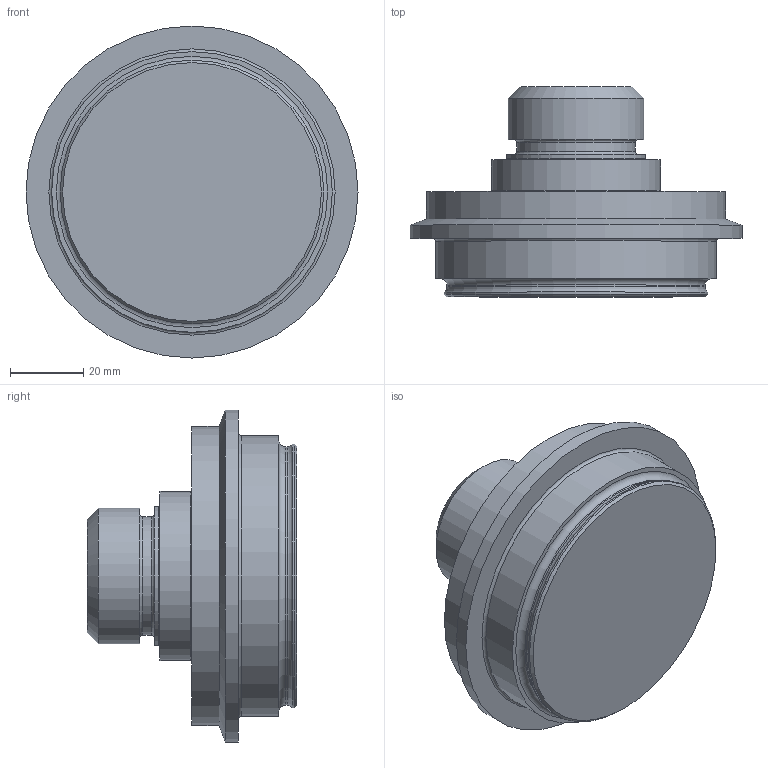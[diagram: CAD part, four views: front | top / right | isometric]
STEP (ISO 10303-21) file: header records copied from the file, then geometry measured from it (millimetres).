
FILE_DESCRIPTION(/* description */ ('STEP AP214'),/* implementation_level */ '2;1');
FILE_NAME(/* name */ 'C:\V\Delavan\Designs\Customer Shell Models\Valves\W61\WCB_w60_actuators_controltops_adapters_step_tcm11-10646 (2)\122306 2.STEP',/* time_stamp */ '2021-04-21T13:12:07+06:00',/* author */ ('H7M44K'),/* organization */ (''),/* preprocessor_version */ 'ST-DEVELOPER v18.1',/* originating_system */ 'Autodesk Inventor 2020',/* authorisation */ '');
FILE_SCHEMA (('AUTOMOTIVE_DESIGN { 1 0 10303 214 3 1 1 }'));
Length unit declared in the file: inch
Products named in the file (1): 122306
Bounding box: 90.91 x 57.45 x 90.91 mm (x, y, z)
Volume: 178843.6 mm3; surface area: 23406.3 mm2
Topology: 1 solids, 1 shells, 27 faces, 71 edges, 52 vertices
Faces by surface type: cylinder 9, plane 8, torus 7, cone 3
Full cylindrical faces by diameter (mm): 32.512 x1, 37.135 x1, 38.1 x1, 46.304 x1, 70.739 x1, 72.212 x1, 76.86 x1, 81.89 x1, 90.907 x1
Entity records: 939 total; most frequent: DIRECTION 186, CARTESIAN_POINT 151, ORIENTED_EDGE 142, AXIS2_PLACEMENT_3D 87, EDGE_CURVE 71, CIRCLE 59, VERTEX_POINT 52, EDGE_LOOP 33
